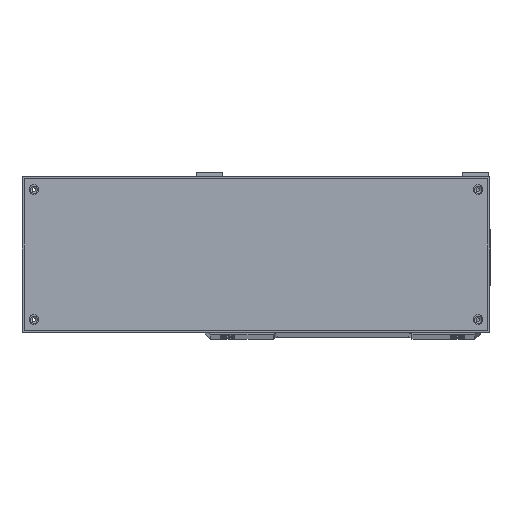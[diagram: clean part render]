
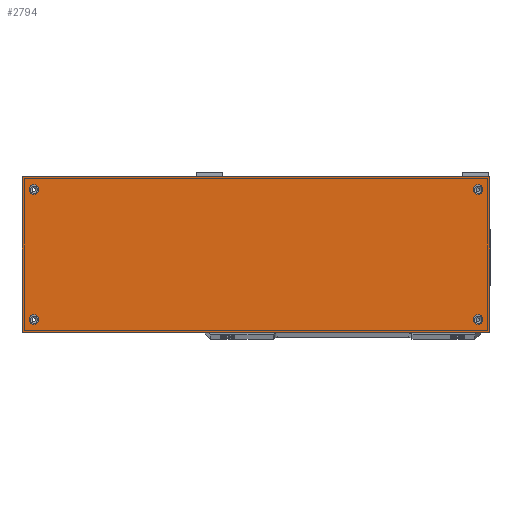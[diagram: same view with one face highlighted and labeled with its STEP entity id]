
A CAD part, top view. The second image highlights one B-rep face of the part: STEP entity #2794.
In plain terms, the highlighted planar face has unit normal (0, 0, 1).
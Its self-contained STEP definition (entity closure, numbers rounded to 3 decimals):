
#970=FACE_BOUND('',#4793,.T.);
#971=FACE_BOUND('',#4794,.T.);
#972=FACE_BOUND('',#4795,.T.);
#973=FACE_BOUND('',#4796,.T.);
#974=FACE_BOUND('',#4797,.T.);
#2088=CIRCLE('',#17055,2.25);
#2090=CIRCLE('',#17058,2.25);
#2092=CIRCLE('',#17061,2.25);
#2094=CIRCLE('',#17064,2.25);
#2794=ADVANCED_FACE('',(#970,#971,#972,#973,#974),#3561,.F.);
#3561=PLANE('',#17070);
#4793=EDGE_LOOP('',(#7427));
#4794=EDGE_LOOP('',(#7428));
#4795=EDGE_LOOP('',(#7429));
#4796=EDGE_LOOP('',(#7430));
#4797=EDGE_LOOP('',(#7431,#7432,#7433,#7434));
#7427=ORIENTED_EDGE('',*,*,#12996,.F.);
#7428=ORIENTED_EDGE('',*,*,#12998,.F.);
#7429=ORIENTED_EDGE('',*,*,#13000,.F.);
#7430=ORIENTED_EDGE('',*,*,#13002,.F.);
#7431=ORIENTED_EDGE('',*,*,#12761,.F.);
#7432=ORIENTED_EDGE('',*,*,#13012,.F.);
#7433=ORIENTED_EDGE('',*,*,#13003,.F.);
#7434=ORIENTED_EDGE('',*,*,#12780,.F.);
#10942=VERTEX_POINT('',#25659);
#10943=VERTEX_POINT('',#25661);
#10954=VERTEX_POINT('',#25694);
#11100=VERTEX_POINT('',#26593);
#11102=VERTEX_POINT('',#26598);
#11104=VERTEX_POINT('',#26603);
#11106=VERTEX_POINT('',#26608);
#11107=VERTEX_POINT('',#26611);
#12761=EDGE_CURVE('',#10942,#10943,#14567,.T.);
#12780=EDGE_CURVE('',#10943,#10954,#14584,.T.);
#12996=EDGE_CURVE('',#11100,#11100,#2088,.T.);
#12998=EDGE_CURVE('',#11102,#11102,#2090,.T.);
#13000=EDGE_CURVE('',#11104,#11104,#2092,.T.);
#13002=EDGE_CURVE('',#11106,#11106,#2094,.T.);
#13003=EDGE_CURVE('',#10954,#11107,#14693,.T.);
#13012=EDGE_CURVE('',#11107,#10942,#14700,.T.);
#14567=LINE('',#25660,#15707);
#14584=LINE('',#25693,#15724);
#14693=LINE('',#26610,#15833);
#14700=LINE('',#26627,#15840);
#15707=VECTOR('',#19638,1.);
#15724=VECTOR('',#19665,1.);
#15833=VECTOR('',#20116,1.);
#15840=VECTOR('',#20129,1.);
#17055=AXIS2_PLACEMENT_3D('',#26592,#20094,#20095);
#17058=AXIS2_PLACEMENT_3D('',#26597,#20100,#20101);
#17061=AXIS2_PLACEMENT_3D('',#26602,#20106,#20107);
#17064=AXIS2_PLACEMENT_3D('',#26607,#20112,#20113);
#17070=AXIS2_PLACEMENT_3D('',#26634,#20135,#20136);
#19638=DIRECTION('',(0.,-1.,0.));
#19665=DIRECTION('',(-1.,0.,0.));
#20094=DIRECTION('',(0.,0.,1.));
#20095=DIRECTION('',(-1.,0.,0.));
#20100=DIRECTION('',(0.,0.,1.));
#20101=DIRECTION('',(1.,0.,0.));
#20106=DIRECTION('',(0.,0.,1.));
#20107=DIRECTION('',(-1.,0.,0.));
#20112=DIRECTION('',(0.,0.,1.));
#20113=DIRECTION('',(1.,0.,0.));
#20116=DIRECTION('',(0.,1.,0.));
#20129=DIRECTION('',(1.,0.,0.));
#20135=DIRECTION('',(0.,0.,-1.));
#20136=DIRECTION('',(1.,0.,0.));
#25659=CARTESIAN_POINT('',(68.,72.,193.));
#25660=CARTESIAN_POINT('',(68.,72.,193.));
#25661=CARTESIAN_POINT('',(68.,0.,193.));
#25693=CARTESIAN_POINT('',(68.,0.,193.));
#25694=CARTESIAN_POINT('',(-148.,0.,193.));
#26592=CARTESIAN_POINT('',(-142.5,6.,193.));
#26593=CARTESIAN_POINT('',(-144.75,6.,193.));
#26597=CARTESIAN_POINT('',(62.5,6.,193.));
#26598=CARTESIAN_POINT('',(64.75,6.,193.));
#26602=CARTESIAN_POINT('',(62.5,66.,193.));
#26603=CARTESIAN_POINT('',(60.25,66.,193.));
#26607=CARTESIAN_POINT('',(-142.5,66.,193.));
#26608=CARTESIAN_POINT('',(-140.25,66.,193.));
#26610=CARTESIAN_POINT('',(-148.,72.,193.));
#26611=CARTESIAN_POINT('',(-148.,72.,193.));
#26627=CARTESIAN_POINT('',(68.,72.,193.));
#26634=CARTESIAN_POINT('',(-40.,36.,193.));
